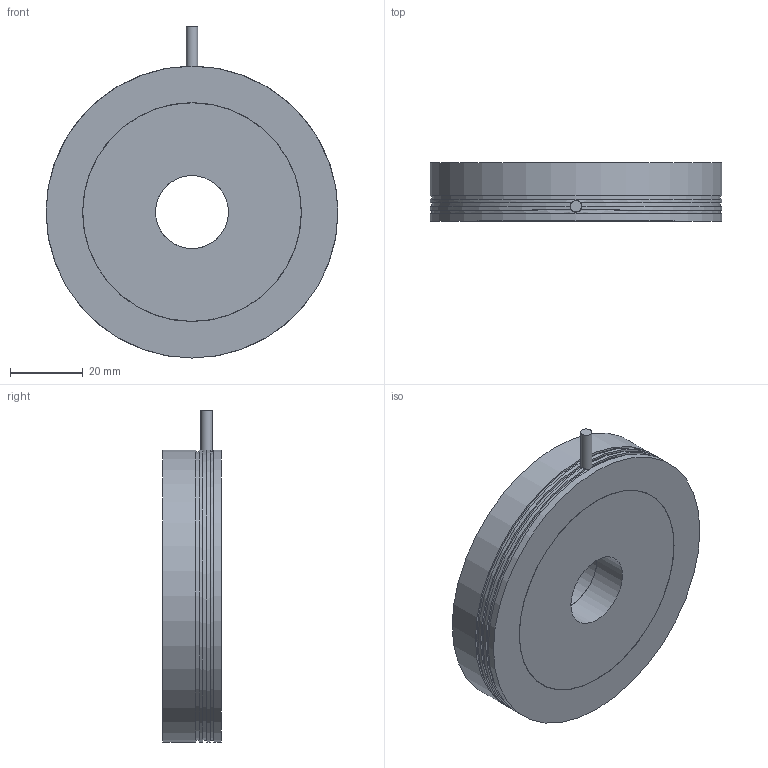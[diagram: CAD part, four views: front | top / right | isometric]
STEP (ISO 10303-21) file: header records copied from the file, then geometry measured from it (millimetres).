
FILE_DESCRIPTION(/* description */ (''),/* implementation_level */ '2;1');
FILE_NAME(/* name */ 'C:\#Vault-WorkDir\Konstruktions-Dokumente\Projekte\Zubehör allgemein\Falcon Beleuchtungen\153-00729_LR 70 xID-24-KFL5.stp',/* time_stamp */ '2018-07-25T10:59:25+02:00',/* author */ ('SensoPart'),/* organization */ ('SensoPart'),/* preprocessor_version */ 'ST-DEVELOPER v17',/* originating_system */ 'Autodesk Inventor 2018',/* authorisation */ '');
FILE_SCHEMA (('AUTOMOTIVE_DESIGN { 1 0 10303 214 3 1 1 }'));
Length unit declared in the file: millimetre
Products named in the file (1): GH-ENG-0026339_Shrinkwrap_1
Bounding box: 80 x 16 x 91 mm (x, y, z)
Volume: 74953.5 mm3; surface area: 27153.1 mm2
Topology: 3 solids, 3 shells, 47 faces, 118 edges, 87 vertices
Faces by surface type: cylinder 24, plane 19, cone 4
Full cylindrical faces by diameter (mm): 2.5 x4, 3 x4, 3.1 x1, 3.2 x1, 20 x2, 59.9 x1, 60 x1, 66.4 x2, 79 x2, 80 x3
Entity records: 1710 total; most frequent: CARTESIAN_POINT 405, DIRECTION 277, ORIENTED_EDGE 228, AXIS2_PLACEMENT_3D 123, EDGE_CURVE 114, VERTEX_POINT 87, CIRCLE 75, EDGE_LOOP 65
